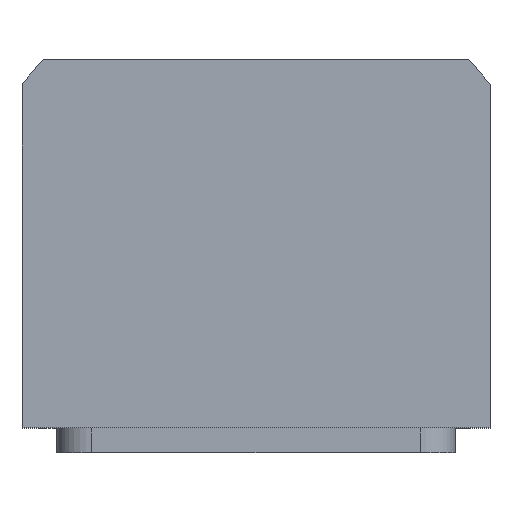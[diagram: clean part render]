
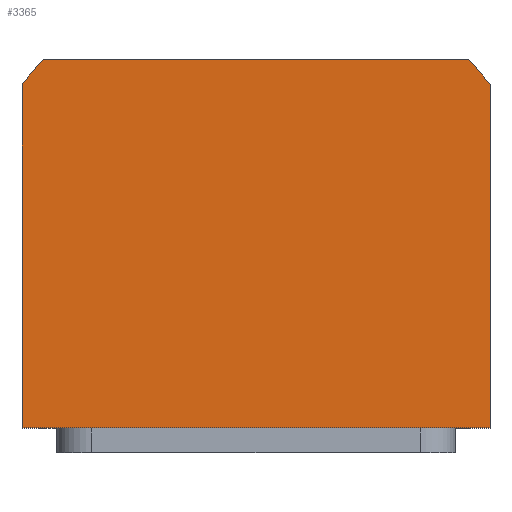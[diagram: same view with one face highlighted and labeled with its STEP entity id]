
A CAD part, top view. The second image highlights one B-rep face of the part: STEP entity #3365.
In plain terms, the highlighted planar face has unit normal (0, 0, 1).
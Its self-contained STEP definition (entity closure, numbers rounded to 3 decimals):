
#2962=FACE_OUTER_BOUND('',#4322,.T.);
#3365=ADVANCED_FACE('',(#2962),#3805,.T.);
#3805=PLANE('',#11363);
#4322=EDGE_LOOP('',(#6872,#6873,#6874,#6875,#6876,#6877));
#4844=LINE('',#13691,#5729);
#4863=LINE('',#14342,#5748);
#4884=LINE('',#14419,#5769);
#4889=LINE('',#14433,#5774);
#5729=VECTOR('',#11780,1.);
#5748=VECTOR('',#11883,1.);
#5769=VECTOR('',#11946,1.);
#5774=VECTOR('',#11961,1.);
#6872=ORIENTED_EDGE('',*,*,#10080,.T.);
#6873=ORIENTED_EDGE('',*,*,#9997,.T.);
#6874=ORIENTED_EDGE('',*,*,#10103,.T.);
#6875=ORIENTED_EDGE('',*,*,#10115,.T.);
#6876=ORIENTED_EDGE('',*,*,#10087,.T.);
#6877=ORIENTED_EDGE('',*,*,#10123,.T.);
#9130=VERTEX_POINT('',#13661);
#9145=VERTEX_POINT('',#13690);
#9220=VERTEX_POINT('',#14338);
#9224=VERTEX_POINT('',#14351);
#9227=VERTEX_POINT('',#14356);
#9238=VERTEX_POINT('',#14397);
#9997=EDGE_CURVE('',#9130,#9145,#4844,.T.);
#10080=EDGE_CURVE('',#9220,#9130,#4863,.T.);
#10087=EDGE_CURVE('',#9224,#9227,#11227,.T.);
#10103=EDGE_CURVE('',#9145,#9238,#11233,.T.);
#10115=EDGE_CURVE('',#9238,#9224,#4884,.T.);
#10123=EDGE_CURVE('',#9227,#9220,#4889,.T.);
#11227=CIRCLE('',#11341,58.5);
#11233=CIRCLE('',#11352,58.5);
#11341=AXIS2_PLACEMENT_3D('',#14357,#11897,#11898);
#11352=AXIS2_PLACEMENT_3D('',#14398,#11928,#11929);
#11363=AXIS2_PLACEMENT_3D('',#14446,#11971,#11972);
#11780=DIRECTION('',(0.,1.,0.));
#11883=DIRECTION('',(1.,0.,0.));
#11897=DIRECTION('',(0.,0.,1.));
#11898=DIRECTION('',(1.,0.,0.));
#11928=DIRECTION('',(0.,0.,1.));
#11929=DIRECTION('',(1.,0.,0.));
#11946=DIRECTION('',(-1.,0.,0.));
#11961=DIRECTION('',(0.,-1.,0.));
#11971=DIRECTION('',(0.,0.,1.));
#11972=DIRECTION('',(-1.,0.,0.));
#13661=CARTESIAN_POINT('',(47.,-34.,42.5));
#13690=CARTESIAN_POINT('',(47.,34.832,42.5));
#13691=CARTESIAN_POINT('',(47.,34.832,42.5));
#14338=CARTESIAN_POINT('',(-47.,-34.,42.5));
#14342=CARTESIAN_POINT('',(47.,-34.,42.5));
#14351=CARTESIAN_POINT('',(-42.688,40.,42.5));
#14356=CARTESIAN_POINT('',(-47.,34.832,42.5));
#14357=CARTESIAN_POINT('',(0.,0.,42.5));
#14397=CARTESIAN_POINT('',(42.688,40.,42.5));
#14398=CARTESIAN_POINT('',(0.,0.,42.5));
#14419=CARTESIAN_POINT('',(-42.688,40.,42.5));
#14433=CARTESIAN_POINT('',(-47.,-34.,42.5));
#14446=CARTESIAN_POINT('',(0.,0.,42.5));
